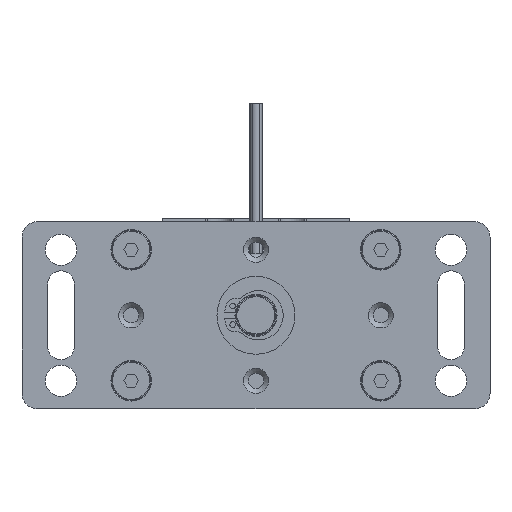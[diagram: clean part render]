
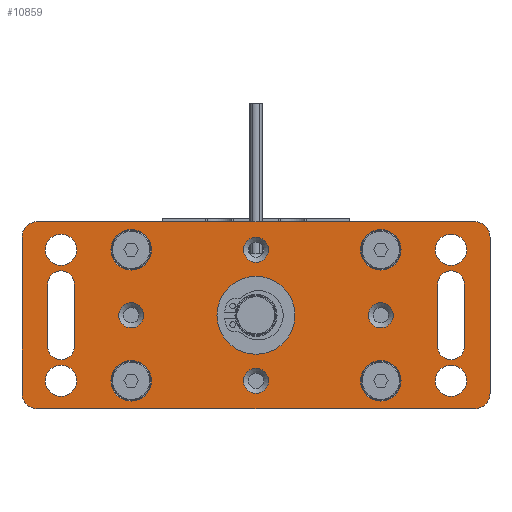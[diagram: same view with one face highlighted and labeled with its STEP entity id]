
A CAD part, front view. The second image highlights one B-rep face of the part: STEP entity #10859.
In plain terms, the highlighted planar face has unit normal (0, -1, 0).
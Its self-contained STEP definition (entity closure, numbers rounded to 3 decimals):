
#380=LINE('',#18243,#1045);
#381=LINE('',#18247,#1046);
#382=LINE('',#18254,#1047);
#383=LINE('',#18259,#1048);
#384=LINE('',#18263,#1049);
#385=LINE('',#18267,#1050);
#386=LINE('',#18290,#1051);
#387=LINE('',#18295,#1052);
#1045=VECTOR('',#14851,1000.);
#1046=VECTOR('',#14854,1000.);
#1047=VECTOR('',#14861,1000.);
#1048=VECTOR('',#14864,1000.);
#1049=VECTOR('',#14867,1000.);
#1050=VECTOR('',#14870,1000.);
#1051=VECTOR('',#14893,1000.);
#1052=VECTOR('',#14896,1000.);
#2659=ORIENTED_EDGE('',*,*,#5657,.F.);
#2660=ORIENTED_EDGE('',*,*,#5658,.F.);
#2661=ORIENTED_EDGE('',*,*,#5659,.F.);
#2662=ORIENTED_EDGE('',*,*,#5660,.F.);
#2663=ORIENTED_EDGE('',*,*,#5661,.F.);
#2664=ORIENTED_EDGE('',*,*,#5662,.T.);
#2665=ORIENTED_EDGE('',*,*,#5663,.F.);
#2666=ORIENTED_EDGE('',*,*,#5664,.T.);
#2667=ORIENTED_EDGE('',*,*,#5665,.T.);
#2668=ORIENTED_EDGE('',*,*,#5666,.T.);
#2669=ORIENTED_EDGE('',*,*,#5667,.T.);
#2670=ORIENTED_EDGE('',*,*,#5668,.T.);
#2671=ORIENTED_EDGE('',*,*,#5669,.T.);
#2672=ORIENTED_EDGE('',*,*,#5670,.T.);
#2673=ORIENTED_EDGE('',*,*,#5671,.T.);
#2674=ORIENTED_EDGE('',*,*,#5672,.F.);
#2675=ORIENTED_EDGE('',*,*,#5673,.T.);
#2676=ORIENTED_EDGE('',*,*,#5674,.F.);
#2677=ORIENTED_EDGE('',*,*,#5675,.F.);
#2678=ORIENTED_EDGE('',*,*,#5676,.F.);
#2679=ORIENTED_EDGE('',*,*,#5677,.F.);
#2680=ORIENTED_EDGE('',*,*,#5678,.T.);
#2681=ORIENTED_EDGE('',*,*,#5679,.T.);
#2682=ORIENTED_EDGE('',*,*,#5680,.T.);
#2683=ORIENTED_EDGE('',*,*,#5681,.T.);
#2684=ORIENTED_EDGE('',*,*,#5682,.T.);
#2685=ORIENTED_EDGE('',*,*,#5683,.T.);
#2686=ORIENTED_EDGE('',*,*,#5684,.T.);
#2687=ORIENTED_EDGE('',*,*,#5685,.T.);
#5657=EDGE_CURVE('',#7193,#7194,#8159,.T.);
#5658=EDGE_CURVE('',#7195,#7193,#380,.T.);
#5659=EDGE_CURVE('',#7196,#7195,#8160,.T.);
#5660=EDGE_CURVE('',#7194,#7196,#381,.T.);
#5661=EDGE_CURVE('',#7197,#7197,#8161,.T.);
#5662=EDGE_CURVE('',#7198,#7198,#8162,.T.);
#5663=EDGE_CURVE('',#7199,#7199,#8163,.T.);
#5664=EDGE_CURVE('',#7200,#7201,#382,.T.);
#5665=EDGE_CURVE('',#7201,#7202,#8164,.T.);
#5666=EDGE_CURVE('',#7202,#7203,#383,.T.);
#5667=EDGE_CURVE('',#7203,#7204,#8165,.T.);
#5668=EDGE_CURVE('',#7204,#7205,#384,.T.);
#5669=EDGE_CURVE('',#7205,#7206,#8166,.T.);
#5670=EDGE_CURVE('',#7206,#7207,#385,.T.);
#5671=EDGE_CURVE('',#7207,#7200,#8167,.T.);
#5672=EDGE_CURVE('',#7208,#7208,#8168,.T.);
#5673=EDGE_CURVE('',#7209,#7209,#8169,.T.);
#5674=EDGE_CURVE('',#7210,#7210,#8170,.T.);
#5675=EDGE_CURVE('',#7211,#7211,#8171,.T.);
#5676=EDGE_CURVE('',#7212,#7212,#8172,.T.);
#5677=EDGE_CURVE('',#7213,#7213,#8173,.T.);
#5678=EDGE_CURVE('',#7214,#7214,#8174,.F.);
#5679=EDGE_CURVE('',#7215,#7215,#8175,.F.);
#5680=EDGE_CURVE('',#7216,#7216,#8176,.F.);
#5681=EDGE_CURVE('',#7217,#7217,#8177,.F.);
#5682=EDGE_CURVE('',#7218,#7219,#386,.T.);
#5683=EDGE_CURVE('',#7219,#7220,#8178,.T.);
#5684=EDGE_CURVE('',#7220,#7221,#387,.T.);
#5685=EDGE_CURVE('',#7221,#7218,#8179,.T.);
#7193=VERTEX_POINT('',#18241);
#7194=VERTEX_POINT('',#18242);
#7195=VERTEX_POINT('',#18244);
#7196=VERTEX_POINT('',#18246);
#7197=VERTEX_POINT('',#18249);
#7198=VERTEX_POINT('',#18251);
#7199=VERTEX_POINT('',#18253);
#7200=VERTEX_POINT('',#18255);
#7201=VERTEX_POINT('',#18256);
#7202=VERTEX_POINT('',#18258);
#7203=VERTEX_POINT('',#18260);
#7204=VERTEX_POINT('',#18262);
#7205=VERTEX_POINT('',#18264);
#7206=VERTEX_POINT('',#18266);
#7207=VERTEX_POINT('',#18268);
#7208=VERTEX_POINT('',#18271);
#7209=VERTEX_POINT('',#18273);
#7210=VERTEX_POINT('',#18275);
#7211=VERTEX_POINT('',#18277);
#7212=VERTEX_POINT('',#18279);
#7213=VERTEX_POINT('',#18281);
#7214=VERTEX_POINT('',#18283);
#7215=VERTEX_POINT('',#18285);
#7216=VERTEX_POINT('',#18287);
#7217=VERTEX_POINT('',#18289);
#7218=VERTEX_POINT('',#18291);
#7219=VERTEX_POINT('',#18292);
#7220=VERTEX_POINT('',#18294);
#7221=VERTEX_POINT('',#18296);
#8159=CIRCLE('',#13324,4.25);
#8160=CIRCLE('',#13325,4.25);
#8161=CIRCLE('',#13326,12.5);
#8162=CIRCLE('',#13327,5.);
#8163=CIRCLE('',#13328,5.);
#8164=CIRCLE('',#13329,5.);
#8165=CIRCLE('',#13330,5.);
#8166=CIRCLE('',#13331,5.);
#8167=CIRCLE('',#13332,5.);
#8168=CIRCLE('',#13333,5.);
#8169=CIRCLE('',#13334,5.);
#8170=CIRCLE('',#13335,6.5);
#8171=CIRCLE('',#13336,6.5);
#8172=CIRCLE('',#13337,6.5);
#8173=CIRCLE('',#13338,6.5);
#8174=CIRCLE('',#13339,3.999);
#8175=CIRCLE('',#13340,3.999);
#8176=CIRCLE('',#13341,3.999);
#8177=CIRCLE('',#13342,3.999);
#8178=CIRCLE('',#13343,4.25);
#8179=CIRCLE('',#13344,4.25);
#8768=EDGE_LOOP('',(#2659,#2660,#2661,#2662));
#8769=EDGE_LOOP('',(#2663));
#8770=EDGE_LOOP('',(#2664));
#8771=EDGE_LOOP('',(#2665));
#8772=EDGE_LOOP('',(#2666,#2667,#2668,#2669,#2670,#2671,#2672,#2673));
#8773=EDGE_LOOP('',(#2674));
#8774=EDGE_LOOP('',(#2675));
#8775=EDGE_LOOP('',(#2676));
#8776=EDGE_LOOP('',(#2677));
#8777=EDGE_LOOP('',(#2678));
#8778=EDGE_LOOP('',(#2679));
#8779=EDGE_LOOP('',(#2680));
#8780=EDGE_LOOP('',(#2681));
#8781=EDGE_LOOP('',(#2682));
#8782=EDGE_LOOP('',(#2683));
#8783=EDGE_LOOP('',(#2684,#2685,#2686,#2687));
#9730=FACE_BOUND('',#8768,.T.);
#9731=FACE_BOUND('',#8769,.T.);
#9732=FACE_BOUND('',#8770,.T.);
#9733=FACE_BOUND('',#8771,.T.);
#9734=FACE_BOUND('',#8772,.T.);
#9735=FACE_BOUND('',#8773,.T.);
#9736=FACE_BOUND('',#8774,.T.);
#9737=FACE_BOUND('',#8775,.T.);
#9738=FACE_BOUND('',#8776,.T.);
#9739=FACE_BOUND('',#8777,.T.);
#9740=FACE_BOUND('',#8778,.T.);
#9741=FACE_BOUND('',#8779,.T.);
#9742=FACE_BOUND('',#8780,.T.);
#9743=FACE_BOUND('',#8781,.T.);
#9744=FACE_BOUND('',#8782,.T.);
#9745=FACE_BOUND('',#8783,.T.);
#10577=PLANE('',#13323);
#10859=ADVANCED_FACE('',(#9730,#9731,#9732,#9733,#9734,#9735,#9736,#9737,
#9738,#9739,#9740,#9741,#9742,#9743,#9744,#9745),#10577,.T.);
#13323=AXIS2_PLACEMENT_3D('',#18239,#14847,#14848);
#13324=AXIS2_PLACEMENT_3D('',#18240,#14849,#14850);
#13325=AXIS2_PLACEMENT_3D('',#18245,#14852,#14853);
#13326=AXIS2_PLACEMENT_3D('',#18248,#14855,#14856);
#13327=AXIS2_PLACEMENT_3D('',#18250,#14857,#14858);
#13328=AXIS2_PLACEMENT_3D('',#18252,#14859,#14860);
#13329=AXIS2_PLACEMENT_3D('',#18257,#14862,#14863);
#13330=AXIS2_PLACEMENT_3D('',#18261,#14865,#14866);
#13331=AXIS2_PLACEMENT_3D('',#18265,#14868,#14869);
#13332=AXIS2_PLACEMENT_3D('',#18269,#14871,#14872);
#13333=AXIS2_PLACEMENT_3D('',#18270,#14873,#14874);
#13334=AXIS2_PLACEMENT_3D('',#18272,#14875,#14876);
#13335=AXIS2_PLACEMENT_3D('',#18274,#14877,#14878);
#13336=AXIS2_PLACEMENT_3D('',#18276,#14879,#14880);
#13337=AXIS2_PLACEMENT_3D('',#18278,#14881,#14882);
#13338=AXIS2_PLACEMENT_3D('',#18280,#14883,#14884);
#13339=AXIS2_PLACEMENT_3D('',#18282,#14885,#14886);
#13340=AXIS2_PLACEMENT_3D('',#18284,#14887,#14888);
#13341=AXIS2_PLACEMENT_3D('',#18286,#14889,#14890);
#13342=AXIS2_PLACEMENT_3D('',#18288,#14891,#14892);
#13343=AXIS2_PLACEMENT_3D('',#18293,#14894,#14895);
#13344=AXIS2_PLACEMENT_3D('',#18297,#14897,#14898);
#14847=DIRECTION('',(0.,-1.,0.));
#14848=DIRECTION('',(0.,0.,-1.));
#14849=DIRECTION('',(0.,-1.,0.));
#14850=DIRECTION('',(1.,0.,0.));
#14851=DIRECTION('',(0.,0.,1.));
#14852=DIRECTION('',(0.,-1.,0.));
#14853=DIRECTION('',(-1.,0.,0.));
#14854=DIRECTION('',(0.,0.,-1.));
#14855=DIRECTION('',(0.,-1.,0.));
#14856=DIRECTION('',(0.,0.,-1.));
#14857=DIRECTION('',(0.,1.,0.));
#14858=DIRECTION('',(1.,0.,0.));
#14859=DIRECTION('',(0.,-1.,0.));
#14860=DIRECTION('',(1.,0.,0.));
#14861=DIRECTION('',(0.,0.,1.));
#14862=DIRECTION('',(0.,-1.,0.));
#14863=DIRECTION('',(0.,0.,-1.));
#14864=DIRECTION('',(-1.,0.,0.));
#14865=DIRECTION('',(0.,-1.,0.));
#14866=DIRECTION('',(0.,0.,-1.));
#14867=DIRECTION('',(0.,0.,-1.));
#14868=DIRECTION('',(0.,-1.,0.));
#14869=DIRECTION('',(0.,0.,-1.));
#14870=DIRECTION('',(1.,0.,0.));
#14871=DIRECTION('',(0.,-1.,0.));
#14872=DIRECTION('',(0.,0.,-1.));
#14873=DIRECTION('',(0.,-1.,0.));
#14874=DIRECTION('',(1.,0.,0.));
#14875=DIRECTION('',(0.,1.,0.));
#14876=DIRECTION('',(1.,0.,0.));
#14877=DIRECTION('',(0.,-1.,0.));
#14878=DIRECTION('',(1.,0.,0.));
#14879=DIRECTION('',(0.,-1.,0.));
#14880=DIRECTION('',(0.,0.,-1.));
#14881=DIRECTION('',(0.,-1.,0.));
#14882=DIRECTION('',(0.,0.,-1.));
#14883=DIRECTION('',(0.,-1.,0.));
#14884=DIRECTION('',(0.,0.,-1.));
#14885=DIRECTION('',(0.,-1.,0.));
#14886=DIRECTION('',(0.,0.,-1.));
#14887=DIRECTION('',(0.,-1.,0.));
#14888=DIRECTION('',(0.,0.,-1.));
#14889=DIRECTION('',(0.,-1.,0.));
#14890=DIRECTION('',(0.,0.,-1.));
#14891=DIRECTION('',(0.,-1.,0.));
#14892=DIRECTION('',(0.,0.,-1.));
#14893=DIRECTION('',(0.,0.,1.));
#14894=DIRECTION('',(0.,1.,0.));
#14895=DIRECTION('',(-1.,0.,0.));
#14896=DIRECTION('',(0.,0.,-1.));
#14897=DIRECTION('',(0.,1.,0.));
#14898=DIRECTION('',(1.,0.,0.));
#18239=CARTESIAN_POINT('',(-75.,0.,-30.));
#18240=CARTESIAN_POINT('',(-62.5,0.,10.));
#18241=CARTESIAN_POINT('',(-58.25,0.,10.));
#18242=CARTESIAN_POINT('',(-66.75,0.,10.));
#18243=CARTESIAN_POINT('',(-58.25,0.,10.));
#18244=CARTESIAN_POINT('',(-58.25,0.,-10.));
#18245=CARTESIAN_POINT('',(-62.5,0.,-10.));
#18246=CARTESIAN_POINT('',(-66.75,0.,-10.));
#18247=CARTESIAN_POINT('',(-66.75,0.,10.));
#18248=CARTESIAN_POINT('',(0.,0.,0.));
#18249=CARTESIAN_POINT('',(0.,0.,-12.5));
#18250=CARTESIAN_POINT('',(62.5,0.,-21.));
#18251=CARTESIAN_POINT('',(67.5,0.,-21.));
#18252=CARTESIAN_POINT('',(62.5,0.,21.));
#18253=CARTESIAN_POINT('',(67.5,0.,21.));
#18254=CARTESIAN_POINT('',(75.,0.,-30.));
#18255=CARTESIAN_POINT('',(75.,0.,-25.));
#18256=CARTESIAN_POINT('',(75.,0.,25.));
#18257=CARTESIAN_POINT('',(70.,0.,25.));
#18258=CARTESIAN_POINT('',(70.,0.,30.));
#18259=CARTESIAN_POINT('',(75.,0.,30.));
#18260=CARTESIAN_POINT('',(-70.,0.,30.));
#18261=CARTESIAN_POINT('',(-70.,0.,25.));
#18262=CARTESIAN_POINT('',(-75.,0.,25.));
#18263=CARTESIAN_POINT('',(-75.,0.,30.));
#18264=CARTESIAN_POINT('',(-75.,0.,-25.));
#18265=CARTESIAN_POINT('',(-70.,0.,-25.));
#18266=CARTESIAN_POINT('',(-70.,0.,-30.));
#18267=CARTESIAN_POINT('',(-75.,0.,-30.));
#18268=CARTESIAN_POINT('',(70.,0.,-30.));
#18269=CARTESIAN_POINT('',(70.,0.,-25.));
#18270=CARTESIAN_POINT('',(-62.5,0.,-21.));
#18271=CARTESIAN_POINT('',(-57.5,0.,-21.));
#18272=CARTESIAN_POINT('',(-62.5,0.,21.));
#18273=CARTESIAN_POINT('',(-57.5,0.,21.));
#18274=CARTESIAN_POINT('',(40.,0.,21.));
#18275=CARTESIAN_POINT('',(46.5,0.,21.));
#18276=CARTESIAN_POINT('',(40.,0.,-21.));
#18277=CARTESIAN_POINT('',(40.,0.,-27.5));
#18278=CARTESIAN_POINT('',(-40.,0.,21.));
#18279=CARTESIAN_POINT('',(-40.,0.,14.5));
#18280=CARTESIAN_POINT('',(-40.,0.,-21.));
#18281=CARTESIAN_POINT('',(-40.,0.,-27.5));
#18282=CARTESIAN_POINT('',(40.,0.,0.));
#18283=CARTESIAN_POINT('',(40.,0.,-3.999));
#18284=CARTESIAN_POINT('',(0.,0.,21.));
#18285=CARTESIAN_POINT('',(0.,0.,17.002));
#18286=CARTESIAN_POINT('',(-40.,0.,0.));
#18287=CARTESIAN_POINT('',(-40.,0.,-3.999));
#18288=CARTESIAN_POINT('',(0.,0.,-21.));
#18289=CARTESIAN_POINT('',(0.,0.,-24.999));
#18290=CARTESIAN_POINT('',(58.25,0.,10.));
#18291=CARTESIAN_POINT('',(58.25,0.,-10.));
#18292=CARTESIAN_POINT('',(58.25,0.,10.));
#18293=CARTESIAN_POINT('',(62.5,0.,10.));
#18294=CARTESIAN_POINT('',(66.75,0.,10.));
#18295=CARTESIAN_POINT('',(66.75,0.,10.));
#18296=CARTESIAN_POINT('',(66.75,0.,-10.));
#18297=CARTESIAN_POINT('',(62.5,0.,-10.));
